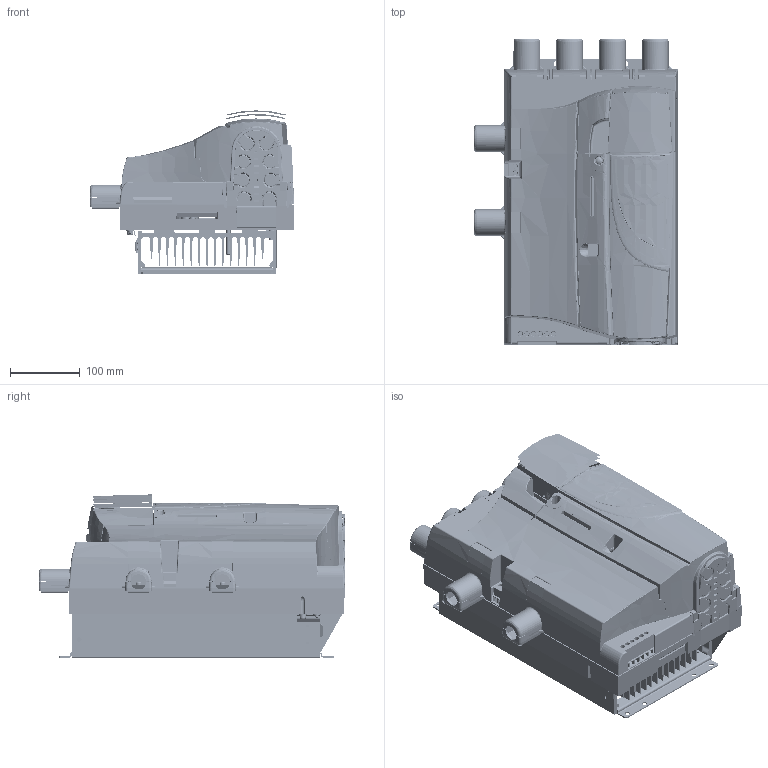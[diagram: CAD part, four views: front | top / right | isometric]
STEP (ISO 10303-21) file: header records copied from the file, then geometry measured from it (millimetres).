
FILE_DESCRIPTION((''),'2;1');
FILE_NAME('MENTOR_SZ1A','2016-07-25T',('wongch01'),(''),'PRO/ENGINEER BY PARAMETRIC TECHNOLOGY CORPORATION, 2011490','PRO/ENGINEER BY PARAMETRIC TECHNOLOGY CORPORATION, 2011490','');
FILE_SCHEMA(('CONFIG_CONTROL_DESIGN'));
Products named in the file (1): MENTOR_SZ1A
Bounding box: 293.03 x 439 x 233.57 mm (x, y, z)
Surface area: 2371533.3 mm2 (no closed solid volume)
Topology: 0 solids, 819 shells, 6704 faces, 38240 edges, 31391 vertices
Faces by surface type: plane 3612, cylinder 2077, torus 400, cone 322, bspline 233, extrusion 44, sphere 9, revolution 7
Entity records: 401212 total; most frequent: CARTESIAN_POINT 126656, ORIENTED_EDGE 50607, DIRECTION 48544, EDGE_CURVE 38218, VERTEX_POINT 31387, VECTOR 26953, LINE 26909, AXIS2_PLACEMENT_3D 10792
